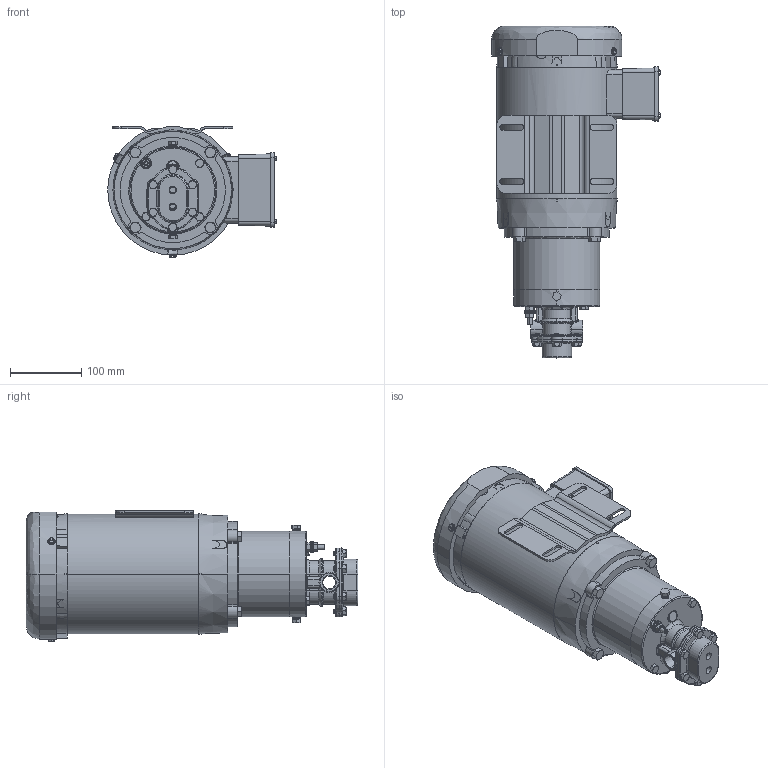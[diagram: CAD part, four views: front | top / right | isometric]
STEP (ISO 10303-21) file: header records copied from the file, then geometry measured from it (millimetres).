
FILE_DESCRIPTION (( 'STEP AP214' ), '1' );
FILE_NAME ('E05M NEMA 56C.STEP', '2018-12-20T19:59:49', ( '' ), ( '' ), 'SwSTEP 2.0', 'SolidWorks 2016', '' );
FILE_SCHEMA (( 'AUTOMOTIVE_DESIGN' ));
Length unit declared in the file: inch
Products named in the file (1): E05M NEMA 56C
Bounding box: 236.57 x 465.95 x 183.39 mm (x, y, z)
Volume: 7378261.7 mm3; surface area: 468355.7 mm2
Topology: 26 solids, 26 shells, 2383 faces, 6179 edges, 3971 vertices
Faces by surface type: plane 930, cylinder 912, cone 284, bspline 257
Entity records: 91110 total; most frequent: CARTESIAN_POINT 32911, ORIENTED_EDGE 12274, DIRECTION 11747, EDGE_CURVE 6137, AXIS2_PLACEMENT_3D 4431, VERTEX_POINT 3970, LINE 2885, VECTOR 2885
